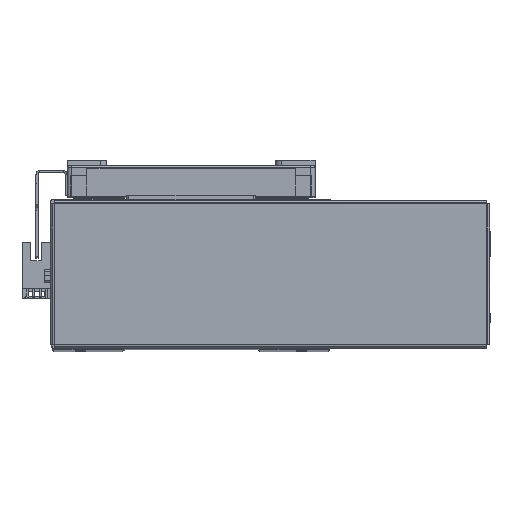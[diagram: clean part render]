
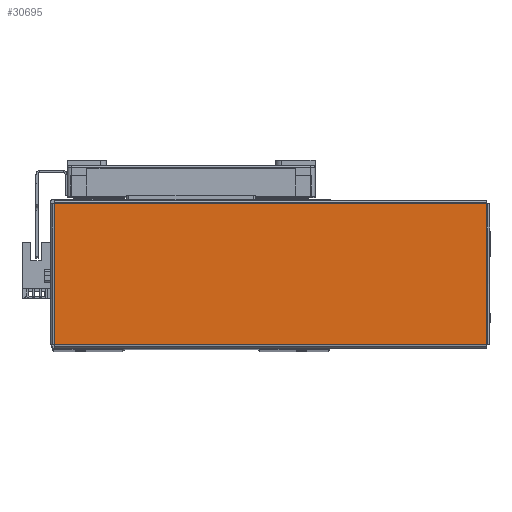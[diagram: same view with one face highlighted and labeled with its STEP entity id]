
A CAD part, top view. The second image highlights one B-rep face of the part: STEP entity #30695.
In plain terms, the highlighted planar face has unit normal (0, 0, 1) as drawn and (0, -1, 0) by its records, which use the part's own axes.
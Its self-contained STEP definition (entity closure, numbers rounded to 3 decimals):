
#15756 = ORIENTED_EDGE ( 'NONE', *, *, #59896, .T. ) ;
#15774 = ORIENTED_EDGE ( 'NONE', *, *, #59903, .T. ) ;
#15776 = ORIENTED_EDGE ( 'NONE', *, *, #59895, .T. ) ;
#15818 = ORIENTED_EDGE ( 'NONE', *, *, #59884, .T. ) ;
#26950 = VECTOR ( 'NONE', #35421, 1000. ) ;
#26964 = VECTOR ( 'NONE', #35411, 1000. ) ;
#26987 = LINE ( 'NONE', #35431, #26950 ) ;
#27109 = EDGE_LOOP ( 'NONE', ( #15774, #15756, #15818, #15776 ) ) ;
#27178 = VECTOR ( 'NONE', #35482, 1000. ) ;
#27183 = LINE ( 'NONE', #35429, #26964 ) ;
#27196 = LINE ( 'NONE', #35414, #27200 ) ;
#27200 = VECTOR ( 'NONE', #35432, 1000. ) ;
#27219 = LINE ( 'NONE', #35459, #27178 ) ;
#30695 = ADVANCED_FACE ( 'NONE', ( #40237 ), #35138, .F. ) ;
#31808 = CARTESIAN_POINT ( 'NONE',  ( -103.763, -1., -33.763 ) ) ;
#31912 = CARTESIAN_POINT ( 'NONE',  ( -103.763, -1., 33.763 ) ) ;
#31932 = CARTESIAN_POINT ( 'NONE',  ( 103.763, -1., -33.763 ) ) ;
#31940 = CARTESIAN_POINT ( 'NONE',  ( 103.763, -1., 33.763 ) ) ;
#35135 = DIRECTION ( 'NONE',  ( 0., 0., 1. ) ) ;
#35138 = PLANE ( 'NONE',  #35637 ) ;
#35143 = DIRECTION ( 'NONE',  ( 0., 1., 0. ) ) ;
#35149 = CARTESIAN_POINT ( 'NONE',  ( 0., -1., 0. ) ) ;
#35411 = DIRECTION ( 'NONE',  ( 0., 0., -1. ) ) ;
#35414 = CARTESIAN_POINT ( 'NONE',  ( 103.763, -1., -33.793 ) ) ;
#35421 = DIRECTION ( 'NONE',  ( 1., 0., 0. ) ) ;
#35429 = CARTESIAN_POINT ( 'NONE',  ( -103.763, -1., 33.793 ) ) ;
#35431 = CARTESIAN_POINT ( 'NONE',  ( -103.793, -1., -33.763 ) ) ;
#35432 = DIRECTION ( 'NONE',  ( 0., 0., 1. ) ) ;
#35459 = CARTESIAN_POINT ( 'NONE',  ( 103.793, -1., 33.763 ) ) ;
#35482 = DIRECTION ( 'NONE',  ( -1., 0., 0. ) ) ;
#35637 = AXIS2_PLACEMENT_3D ( 'NONE', #35149, #35143, #35135 ) ;
#40237 = FACE_OUTER_BOUND ( 'NONE', #27109, .T. ) ;
#51667 = VERTEX_POINT ( 'NONE', #31808 ) ;
#51683 = VERTEX_POINT ( 'NONE', #31912 ) ;
#51705 = VERTEX_POINT ( 'NONE', #31940 ) ;
#51712 = VERTEX_POINT ( 'NONE', #31932 ) ;
#59884 = EDGE_CURVE ( 'NONE', #51667, #51712, #26987, .T. ) ;
#59895 = EDGE_CURVE ( 'NONE', #51712, #51705, #27196, .T. ) ;
#59896 = EDGE_CURVE ( 'NONE', #51683, #51667, #27183, .T. ) ;
#59903 = EDGE_CURVE ( 'NONE', #51705, #51683, #27219, .T. ) ;
